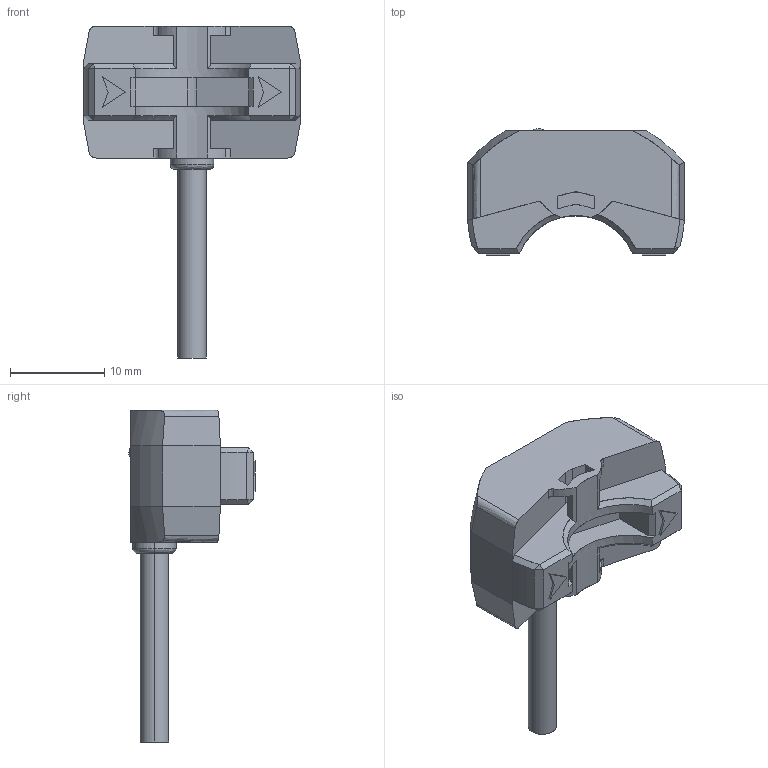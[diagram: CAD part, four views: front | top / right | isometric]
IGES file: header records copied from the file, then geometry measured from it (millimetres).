
Start section: SolidWorks IGES file using analytic representation for surfaces
Global section: file name: D:\权其捞瘤 档搁 犬厘磊 函券 累诀\颇飘1\BL13-TDT_BL13-TDT-P_BL13-TDT-S_BL13-TDT-P-S.IGS; native system: SolidWorks 2015; preprocessor: SolidWorks 2015; author: Administrator; date: 180719.114156; units: millimetre
Bounding box: 23 x 13.42 x 35.2 mm (x, y, z)
Surface area: 1757.6 mm2 (no closed solid volume)
Topology: 0 solids, 0 shells, 137 faces, 1454 edges, 1452 vertices
Faces by surface type: bspline 90, revolution 47
